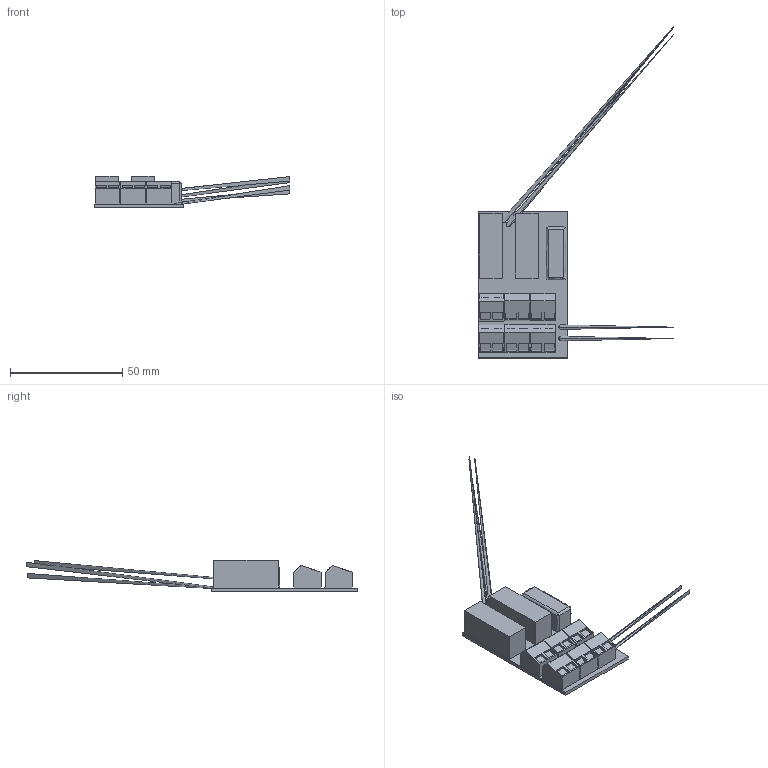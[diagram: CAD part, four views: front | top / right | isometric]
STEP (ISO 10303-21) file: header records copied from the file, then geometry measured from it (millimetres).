
FILE_DESCRIPTION(/* description */ (''),/* implementation_level */ '2;1');
FILE_NAME(/* name */ 'HiRel-230V',/* time_stamp */ '2020-12-23T10:44:12+01:00',/* author */ (''),/* organization */ (''),/* preprocessor_version */ 'ST-DEVELOPER v15',/* originating_system */ '',/* authorisation */ '');
FILE_SCHEMA (('AUTOMOTIVE_DESIGN'));
Length unit declared in the file: millimetre
Products named in the file (1): Document
Bounding box: 86.97 x 147.68 x 13.9 mm (x, y, z)
Volume: 4819.8 mm3; surface area: 19158.6 mm2
Topology: 2 solids, 105 shells, 319 faces, 1900 edges, 2037 vertices
Faces by surface type: plane 211, bspline 108
Entity records: 30134 total; most frequent: CARTESIAN_POINT 17547, ORIENTED_EDGE 1261, COLOUR_RGB 1198, PRESENTATION_STYLE_ASSIGNMENT 1198, STYLED_ITEM 1198, PRESENTATION_LAYER_ASSIGNMENT 1198, CURVE_STYLE 1093, EDGE_CURVE 803
